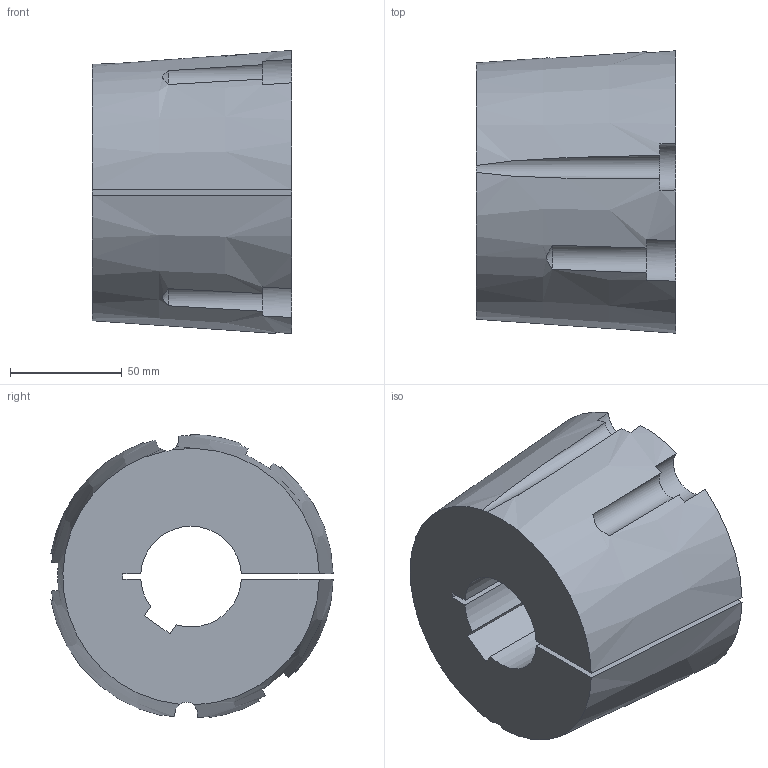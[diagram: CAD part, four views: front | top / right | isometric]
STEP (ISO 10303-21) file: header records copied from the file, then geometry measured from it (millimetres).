
FILE_DESCRIPTION( ( 'STEP AP203' ), '1' );
FILE_NAME( 'D:/export/antriebselemente/spannbuchsen_und_spannsaetze/taper-spannbuchsen_1008_bis_5050/taper-spannbuchsen_62251045Isometric_209.stp', '2018-12-11T11:11:26', ( '' ), ( '' ), ' ', 'PARTsolutions', ' ' );
FILE_SCHEMA( ( 'CONFIG_CONTROL_DESIGN' ) );
Length unit declared in the file: millimetre
Products named in the file (1): _taper-spannbuchsen_62251045
Bounding box: 89 x 126.13 x 126.46 mm (x, y, z)
Volume: 840608.1 mm3; surface area: 76175.2 mm2
Topology: 1 solids, 1 shells, 34 faces, 96 edges, 64 vertices
Faces by surface type: plane 15, cylinder 13, cone 6
Entity records: 1315 total; most frequent: CARTESIAN_POINT 391, ORIENTED_EDGE 192, DIRECTION 186, EDGE_CURVE 96, AXIS2_PLACEMENT_3D 80, VERTEX_POINT 64, CIRCLE 45, ADVANCED_FACE 34
